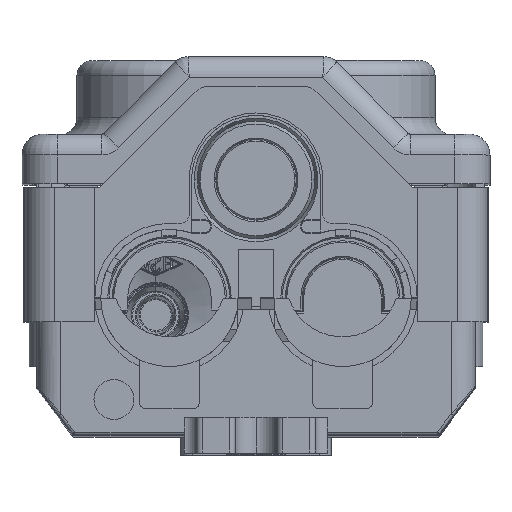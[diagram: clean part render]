
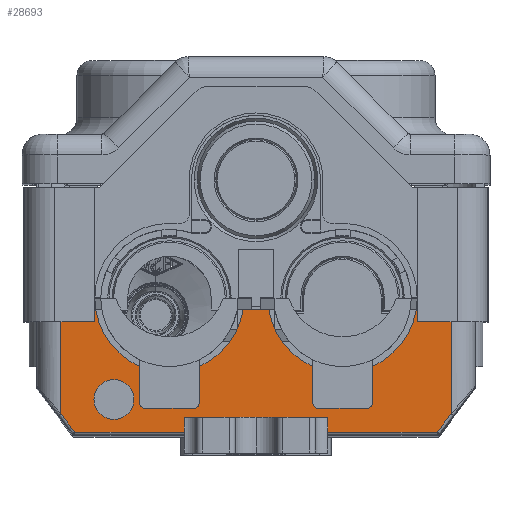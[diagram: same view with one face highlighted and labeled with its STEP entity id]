
A CAD part, top view. The second image highlights one B-rep face of the part: STEP entity #28693.
In plain terms, the highlighted planar face has unit normal (0, 0, 1).
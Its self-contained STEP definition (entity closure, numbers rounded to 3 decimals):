
#293 = DIRECTION ( 'NONE',  ( 0., -1., 0. ) ) ;
#402 = CIRCLE ( 'NONE', #38397, 12.5 ) ;
#692 = VERTEX_POINT ( 'NONE', #28173 ) ;
#717 = CARTESIAN_POINT ( 'NONE',  ( -2.161, 21., 54.35 ) ) ;
#879 = DIRECTION ( 'NONE',  ( 0., 0., 1. ) ) ;
#1140 = VECTOR ( 'NONE', #293, 1000. ) ;
#1396 = ORIENTED_EDGE ( 'NONE', *, *, #17895, .T. ) ;
#1457 = VECTOR ( 'NONE', #17606, 1000. ) ;
#1492 = VECTOR ( 'NONE', #9338, 1000. ) ;
#1734 = FACE_BOUND ( 'NONE', #12597, .T. ) ;
#2001 = DIRECTION ( 'NONE',  ( 0.602, 0.799, 0. ) ) ;
#2238 = CARTESIAN_POINT ( 'NONE',  ( -38.2, 23., 54.35 ) ) ;
#2782 = VECTOR ( 'NONE', #2001, 1000. ) ;
#2798 = ORIENTED_EDGE ( 'NONE', *, *, #10413, .T. ) ;
#2848 = ORIENTED_EDGE ( 'NONE', *, *, #36877, .T. ) ;
#3092 = CARTESIAN_POINT ( 'NONE',  ( 2.161, 21., 54.35 ) ) ;
#3128 = DIRECTION ( 'NONE',  ( 0., 0., 1. ) ) ;
#3733 = LINE ( 'NONE', #2238, #1492 ) ;
#3945 = VERTEX_POINT ( 'NONE', #27334 ) ;
#3961 = VECTOR ( 'NONE', #25409, 1000. ) ;
#4318 = CARTESIAN_POINT ( 'NONE',  ( -38.2, 23., 54.35 ) ) ;
#4463 = EDGE_CURVE ( 'NONE', #19946, #18704, #3733, .T. ) ;
#4592 = DIRECTION ( 'NONE',  ( 0., 0., 1. ) ) ;
#4848 = ORIENTED_EDGE ( 'NONE', *, *, #40033, .T. ) ;
#5181 = ORIENTED_EDGE ( 'NONE', *, *, #14153, .F. ) ;
#5303 = VERTEX_POINT ( 'NONE', #24656 ) ;
#5780 = ORIENTED_EDGE ( 'NONE', *, *, #25969, .F. ) ;
#6097 = ORIENTED_EDGE ( 'NONE', *, *, #22781, .T. ) ;
#6203 = LINE ( 'NONE', #9556, #23857 ) ;
#6478 = ORIENTED_EDGE ( 'NONE', *, *, #18017, .F. ) ;
#7023 = CARTESIAN_POINT ( 'NONE',  ( 30.351, 0.5, 54.35 ) ) ;
#8119 = VECTOR ( 'NONE', #40700, 1000. ) ;
#8985 = CIRCLE ( 'NONE', #37474, 3.35 ) ;
#9338 = DIRECTION ( 'NONE',  ( 1., 0., 0. ) ) ;
#9556 = CARTESIAN_POINT ( 'NONE',  ( -12., 3., 54.35 ) ) ;
#9647 = CARTESIAN_POINT ( 'NONE',  ( -23.8, 6., 54.35 ) ) ;
#9874 = EDGE_CURVE ( 'NONE', #18540, #37447, #9996, .T. ) ;
#9996 = LINE ( 'NONE', #42326, #19409 ) ;
#10413 = EDGE_CURVE ( 'NONE', #37447, #36583, #12201, .T. ) ;
#11958 = LINE ( 'NONE', #4318, #28536 ) ;
#12018 = EDGE_CURVE ( 'NONE', #12207, #19946, #39978, .T. ) ;
#12201 = LINE ( 'NONE', #40728, #2782 ) ;
#12207 = VERTEX_POINT ( 'NONE', #3092 ) ;
#12597 = EDGE_LOOP ( 'NONE', ( #40988, #21870 ) ) ;
#12670 = AXIS2_PLACEMENT_3D ( 'NONE', #32864, #4592, #39908 ) ;
#12918 = AXIS2_PLACEMENT_3D ( 'NONE', #9647, #34383, #13212 ) ;
#13212 = DIRECTION ( 'NONE',  ( 1., 0., 0. ) ) ;
#14064 = CARTESIAN_POINT ( 'NONE',  ( -19.118, -14.406, 54.35 ) ) ;
#14153 = EDGE_CURVE ( 'NONE', #41599, #692, #6203, .T. ) ;
#14397 = CARTESIAN_POINT ( 'NONE',  ( -30.351, 0.5, 54.35 ) ) ;
#14448 = VECTOR ( 'NONE', #21415, 1000. ) ;
#14814 = EDGE_CURVE ( 'NONE', #41599, #3945, #33248, .T. ) ;
#14903 = EDGE_CURVE ( 'NONE', #41266, #12207, #22731, .T. ) ;
#15212 = ORIENTED_EDGE ( 'NONE', *, *, #4463, .F. ) ;
#15616 = VECTOR ( 'NONE', #28489, 1000. ) ;
#15801 = DIRECTION ( 'NONE',  ( 0., 0., 1. ) ) ;
#16430 = CARTESIAN_POINT ( 'NONE',  ( 0., 0.5, 54.35 ) ) ;
#16431 = VECTOR ( 'NONE', #19993, 1000. ) ;
#17069 = CARTESIAN_POINT ( 'NONE',  ( -27., 23., 54.35 ) ) ;
#17375 = ORIENTED_EDGE ( 'NONE', *, *, #14814, .T. ) ;
#17606 = DIRECTION ( 'NONE',  ( 0.602, -0.799, 0. ) ) ;
#17664 = DIRECTION ( 'NONE',  ( 1., 0., 0. ) ) ;
#17802 = CARTESIAN_POINT ( 'NONE',  ( 27., 23., 54.35 ) ) ;
#17895 = EDGE_CURVE ( 'NONE', #19936, #692, #35237, .T. ) ;
#18017 = EDGE_CURVE ( 'NONE', #24763, #41266, #402, .T. ) ;
#18255 = ORIENTED_EDGE ( 'NONE', *, *, #14903, .F. ) ;
#18356 = DIRECTION ( 'NONE',  ( 1., 0., 0. ) ) ;
#18540 = VERTEX_POINT ( 'NONE', #41951 ) ;
#18704 = VERTEX_POINT ( 'NONE', #29172 ) ;
#18725 = CARTESIAN_POINT ( 'NONE',  ( 32.7, 3.618, 54.35 ) ) ;
#19409 = VECTOR ( 'NONE', #17664, 1000. ) ;
#19936 = VERTEX_POINT ( 'NONE', #14397 ) ;
#19946 = VERTEX_POINT ( 'NONE', #17802 ) ;
#19993 = DIRECTION ( 'NONE',  ( 1., 0., 0. ) ) ;
#20028 = CIRCLE ( 'NONE', #12918, 3.35 ) ;
#21415 = DIRECTION ( 'NONE',  ( 1., 0., 0. ) ) ;
#21579 = VERTEX_POINT ( 'NONE', #27973 ) ;
#21870 = ORIENTED_EDGE ( 'NONE', *, *, #39919, .F. ) ;
#22054 = CARTESIAN_POINT ( 'NONE',  ( -23.8, 6., 54.35 ) ) ;
#22145 = LINE ( 'NONE', #42576, #1140 ) ;
#22233 = EDGE_LOOP ( 'NONE', ( #32312, #2848, #1396, #5181, #17375, #6097, #45482, #2798, #4848, #15212, #31529, #18255, #6478, #5780 ) ) ;
#22731 = LINE ( 'NONE', #717, #3961 ) ;
#22781 = EDGE_CURVE ( 'NONE', #3945, #18540, #22145, .T. ) ;
#23592 = LINE ( 'NONE', #44240, #8119 ) ;
#23857 = VECTOR ( 'NONE', #30746, 1000. ) ;
#24276 = CARTESIAN_POINT ( 'NONE',  ( -14.5, 23., 54.35 ) ) ;
#24656 = CARTESIAN_POINT ( 'NONE',  ( -27.15, 6., 54.35 ) ) ;
#24763 = VERTEX_POINT ( 'NONE', #17069 ) ;
#25409 = DIRECTION ( 'NONE',  ( 1., 0., 0. ) ) ;
#25594 = DIRECTION ( 'NONE',  ( 1., 0., 0. ) ) ;
#25969 = EDGE_CURVE ( 'NONE', #36606, #24763, #11958, .T. ) ;
#27176 = CARTESIAN_POINT ( 'NONE',  ( -20.45, 6., 54.35 ) ) ;
#27334 = CARTESIAN_POINT ( 'NONE',  ( 12., 3., 54.35 ) ) ;
#27835 = DIRECTION ( 'NONE',  ( 1., 0., 0. ) ) ;
#27973 = CARTESIAN_POINT ( 'NONE',  ( -32.7, 3.618, 54.35 ) ) ;
#28173 = CARTESIAN_POINT ( 'NONE',  ( -12., 0.5, 54.35 ) ) ;
#28489 = DIRECTION ( 'NONE',  ( 0., 1., 0. ) ) ;
#28536 = VECTOR ( 'NONE', #18356, 1000. ) ;
#28693 = ADVANCED_FACE ( 'NONE', ( #37107, #1734 ), #36381, .T. ) ;
#29172 = CARTESIAN_POINT ( 'NONE',  ( 32.7, 23., 54.35 ) ) ;
#29641 = LINE ( 'NONE', #14064, #1457 ) ;
#30746 = DIRECTION ( 'NONE',  ( 0., -1., 0. ) ) ;
#30756 = CARTESIAN_POINT ( 'NONE',  ( -12., 3., 54.35 ) ) ;
#31529 = ORIENTED_EDGE ( 'NONE', *, *, #12018, .F. ) ;
#31928 = CARTESIAN_POINT ( 'NONE',  ( 32.7, 0., 54.35 ) ) ;
#32312 = ORIENTED_EDGE ( 'NONE', *, *, #32880, .T. ) ;
#32575 = CARTESIAN_POINT ( 'NONE',  ( -2.161, 21., 54.35 ) ) ;
#32864 = CARTESIAN_POINT ( 'NONE',  ( 0., 0., 54.35 ) ) ;
#32880 = EDGE_CURVE ( 'NONE', #36606, #21579, #23592, .T. ) ;
#33248 = LINE ( 'NONE', #42542, #14448 ) ;
#33955 = VERTEX_POINT ( 'NONE', #27176 ) ;
#34383 = DIRECTION ( 'NONE',  ( 0., 0., 1. ) ) ;
#34400 = LINE ( 'NONE', #31928, #15616 ) ;
#35237 = LINE ( 'NONE', #16430, #16431 ) ;
#35247 = AXIS2_PLACEMENT_3D ( 'NONE', #36958, #15801, #40472 ) ;
#36381 = PLANE ( 'NONE',  #12670 ) ;
#36583 = VERTEX_POINT ( 'NONE', #18725 ) ;
#36606 = VERTEX_POINT ( 'NONE', #39854 ) ;
#36877 = EDGE_CURVE ( 'NONE', #21579, #19936, #29641, .T. ) ;
#36958 = CARTESIAN_POINT ( 'NONE',  ( 14.5, 23., 54.35 ) ) ;
#37107 = FACE_OUTER_BOUND ( 'NONE', #22233, .T. ) ;
#37447 = VERTEX_POINT ( 'NONE', #7023 ) ;
#37474 = AXIS2_PLACEMENT_3D ( 'NONE', #22054, #879, #25594 ) ;
#38397 = AXIS2_PLACEMENT_3D ( 'NONE', #24276, #3128, #27835 ) ;
#39725 = EDGE_CURVE ( 'NONE', #33955, #5303, #8985, .T. ) ;
#39854 = CARTESIAN_POINT ( 'NONE',  ( -32.7, 23., 54.35 ) ) ;
#39908 = DIRECTION ( 'NONE',  ( 1., 0., 0. ) ) ;
#39919 = EDGE_CURVE ( 'NONE', #5303, #33955, #20028, .T. ) ;
#39978 = CIRCLE ( 'NONE', #35247, 12.5 ) ;
#40033 = EDGE_CURVE ( 'NONE', #36583, #18704, #34400, .T. ) ;
#40472 = DIRECTION ( 'NONE',  ( 1., 0., 0. ) ) ;
#40700 = DIRECTION ( 'NONE',  ( 0., -1., 0. ) ) ;
#40728 = CARTESIAN_POINT ( 'NONE',  ( 19.118, -14.406, 54.35 ) ) ;
#40988 = ORIENTED_EDGE ( 'NONE', *, *, #39725, .F. ) ;
#41266 = VERTEX_POINT ( 'NONE', #32575 ) ;
#41599 = VERTEX_POINT ( 'NONE', #30756 ) ;
#41951 = CARTESIAN_POINT ( 'NONE',  ( 12., 0.5, 54.35 ) ) ;
#42326 = CARTESIAN_POINT ( 'NONE',  ( 0., 0.5, 54.35 ) ) ;
#42542 = CARTESIAN_POINT ( 'NONE',  ( 0., 3., 54.35 ) ) ;
#42576 = CARTESIAN_POINT ( 'NONE',  ( 12., 3., 54.35 ) ) ;
#44240 = CARTESIAN_POINT ( 'NONE',  ( -32.7, 0., 54.35 ) ) ;
#45482 = ORIENTED_EDGE ( 'NONE', *, *, #9874, .T. ) ;
